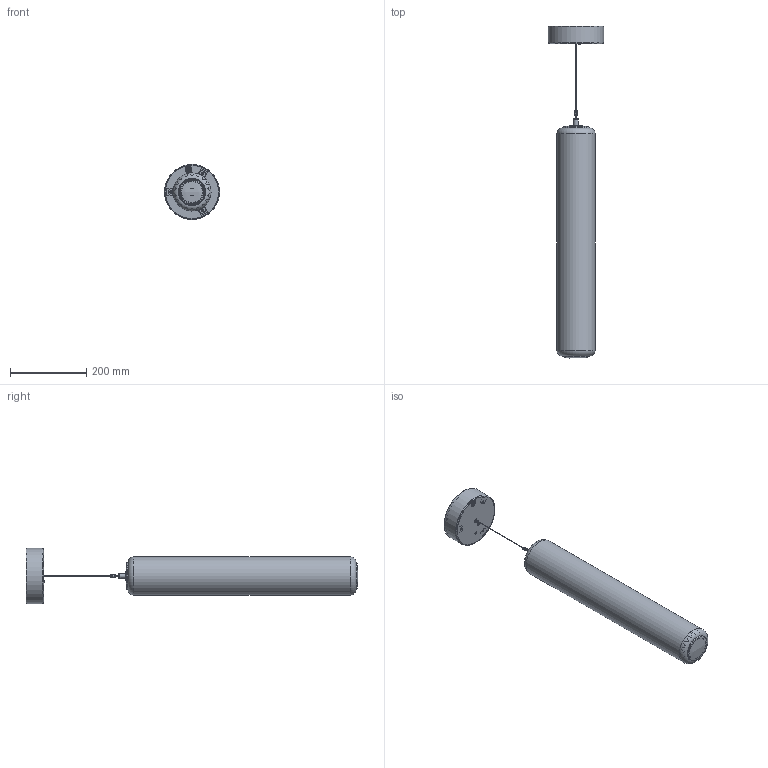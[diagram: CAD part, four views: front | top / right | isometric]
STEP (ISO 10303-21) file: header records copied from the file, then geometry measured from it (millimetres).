
FILE_DESCRIPTION(/* description */ ('VERTICALE 60'),/* implementation_level */ '2;1');
FILE_NAME(/* name */ '00343MP2LD10CEPB - STACKING S 60 V NAKED EMEA - VU RIG.stp',/* time_stamp */ '2026-02-02T16:11:17+01:00',/* author */ ('marco.prandina'),/* organization */ (''),/* preprocessor_version */ 'ST-DEVELOPER v20.1',/* originating_system */ 'Autodesk Inventor 2026',/* authorisation */ '');
FILE_SCHEMA (('AUTOMOTIVE_DESIGN { 1 0 10303 214 3 1 1 }'));
Products named in the file (56): 00343MP2; 00343C502; 00343C406-B; C010; K001; W029-BIA; W031; 00343C395; B006; 00343C397; 00343C404; 00343C398; 00343C407-B; 00343C369; 00343C377; Z0008; W024; K002; GUARN. O RING 2,9X1,78(SILIC.TRASP)SOSP.; VITE TSP M4X6 ZN; 00343C410; VITE TCB M4X8 UNI7687 ZB; VITE AUTOFIL. TCB TORX 4,2X38 ISO14585 ZB; 00499MP0021; 00499C002; 00499C005; A001; Z0013; B014-TRS; RONDELLA PA D10,5 d18 H1,6 DIN 433; B001-NRO; X0001; Z0010; 00499C004-B; 00499C004-01B; PERNO A PRESSIONE M3 H8 TIPO SPECIALINSERT CP08 0 030 12; K015; DADO M3 S2 M.00.06.19 UNI5588 DIN934; K016; K017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
Assembly tree (136 placements, depth 4):
  00343MP2
    00343C502
      00343C406-B
      C010  x55
      K001
      W029-BIA
      W031
    00343C395
    B006
    00343C397
    00343C404
    00343C398
    00343C407-B
    00343C369
    00343C377
    Z0008
    W024
    K002
    GUARN. O RING 2,9X1,78(SILIC.TRASP)SOSP.  x6
    VITE TSP M4X6 ZN
    00343C410
    VITE TCB M4X8 UNI7687 ZB
    VITE AUTOFIL. TCB TORX 4,2X38 ISO14585 ZB  x2
    00499MP0021
      00499C002
      00499C005
      A001
      K004  x8
      Z0013
      B014-TRS
      RONDELLA PA D10,5 d18 H1,6 DIN 433
      B001-NRO
      X0001
      Z0010
      00499C004-B
        00499C004-01B
        PERNO A PRESSIONE M3 H8 TIPO SPECIALINSERT CP08 0 030 12
      W026  x2
      K011  x2
      RONDELLA DENTELLATA ESTERNA M3 UNI8842A  x4
      K015
      DADO M3 S2 M.00.06.19 UNI5588 DIN934
      K016
      W027-BIA  x2
      K017
      VITE TBEI M4X8 ISO 7380 ZB
      VITE TCB M3X6 UNI7687 ZB  x4
      VITE TCB M3X8 UNI7687 ZB
      VITE TSPC M3X6 UNI7688 ZINCATA BIANCA  x3
      VITE TCB M3X16 UNI7687 ZB  x4
      DADO ZINCATO M8X1 H3
      RONDELLA DENTELLATA ESTERNA M8
      Z017-G
      Z017-C
      Z017-E
    00343V005-B-600
Bounding box: 145 x 873.11 x 145 mm (x, y, z)
Volume: 1413739.4 mm3; surface area: 1001722.7 mm2
Topology: 133 solids, 134 shells, 6478 faces, 16730 edges, 11063 vertices
Faces by surface type: plane 4821, cylinder 1131, cone 347, bspline 94, torus 68, sphere 17
Full cylindrical faces by diameter (mm): 0.9 x1, 1.02 x2, 1.25 x1, 1.5 x2, 1.8 x2, 2.459 x20, 2.693 x3, 2.75 x9, 2.8 x3, 2.9 x2, 2.97 x1, 3 x21, 3.2 x4, 3.242 x3, 3.302 x1, 3.5 x20, 3.554 x1, 3.571 x1, 3.65 x1, 3.7 x1, 3.9 x16, 3.95 x1, 4 x5, 4.2 x3, 4.3 x3, 4.5 x5, 5 x5, 5.2 x1, 5.5 x3, 5.8 x1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
Entity records: 83514 total; most frequent: CARTESIAN_POINT 18165, DIRECTION 12973, ORIENTED_EDGE 12829, EDGE_CURVE 6455, AXIS2_PLACEMENT_3D 4503, VERTEX_POINT 4219, LINE 3967, VECTOR 3967
